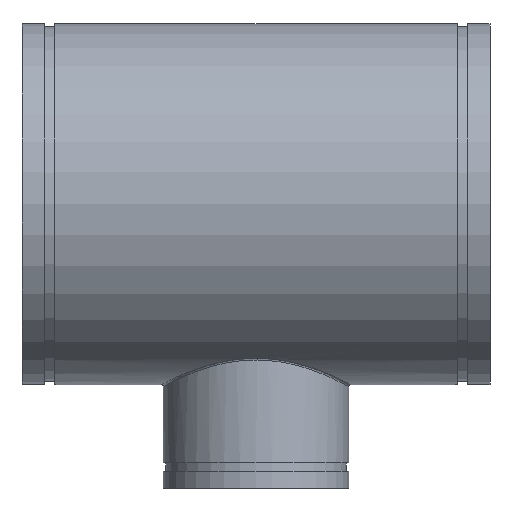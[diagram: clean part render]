
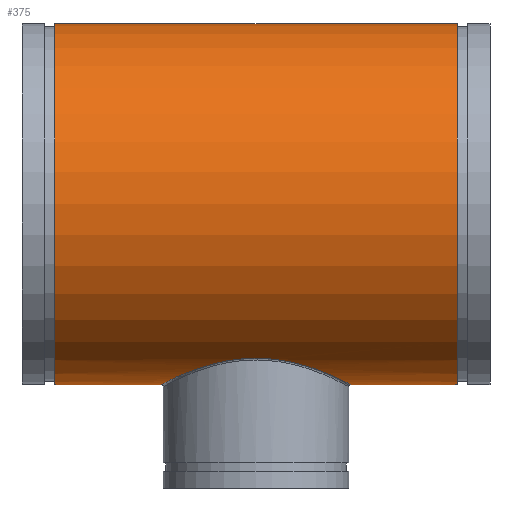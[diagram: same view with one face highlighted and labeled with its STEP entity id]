
A CAD part, top view. The second image highlights one B-rep face of the part: STEP entity #375.
In plain terms, the highlighted cylindrical face has radius 274.32 mm (diameter 548.64 mm), a full revolution.
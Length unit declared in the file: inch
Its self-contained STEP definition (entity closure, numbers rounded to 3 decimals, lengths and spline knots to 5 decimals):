
#54=FACE_BOUND('',#119,.T.);
#65=LINE('',#896,#76);
#76=VECTOR('',#483,10.8);
#87=CYLINDRICAL_SURFACE('',#415,10.8);
#98=FACE_OUTER_BOUND('',#118,.T.);
#118=EDGE_LOOP('',(#266,#267,#268,#269));
#119=EDGE_LOOP('',(#270));
#150=B_SPLINE_CURVE_WITH_KNOTS('',3,(#853,#854,#855,#856,#857,#858,#859,
#860,#861,#862,#863,#864,#865,#866,#867,#868,#869,#870,#871,#872,#873,#874,
#875,#876,#877,#878,#879,#880,#881,#882,#883,#884,#885,#886,#887,#888,#889,
#890,#891),.UNSPECIFIED.,.T.,.F.,(4,1,1,1,1,1,1,1,1,1,1,1,1,1,1,1,1,1,1,
1,1,1,1,1,1,1,1,1,1,1,1,1,1,1,1,1,4),(-86.81398,-84.4886,
-83.71348,-80.61298,-74.41198,-71.82823,
-70.27798,-68.21098,-66.14398,-65.88561,
-65.11048,-64.07698,-62.00998,-60.97648,
-57.87598,-53.74199,-49.60799,-47.02424,
-45.47399,-43.40699,-41.33999,-40.30649,
-37.20599,-33.07199,-28.93799,-27.64612,
-26.87099,-24.80399,-21.70349,-21.44512,-20.66999,
-16.536,-12.402,-9.3015,-6.201,
-3.1005,0.),.UNSPECIFIED.);
#154=CIRCLE('',#416,10.8);
#155=CIRCLE('',#417,10.8);
#182=VERTEX_POINT('',#806);
#185=VERTEX_POINT('',#893);
#186=VERTEX_POINT('',#895);
#219=EDGE_CURVE('',#182,#182,#150,.T.);
#220=EDGE_CURVE('',#185,#185,#154,.T.);
#221=EDGE_CURVE('',#185,#186,#65,.T.);
#222=EDGE_CURVE('',#186,#186,#155,.T.);
#266=ORIENTED_EDGE('',*,*,#220,.T.);
#267=ORIENTED_EDGE('',*,*,#221,.T.);
#268=ORIENTED_EDGE('',*,*,#222,.T.);
#269=ORIENTED_EDGE('',*,*,#221,.F.);
#270=ORIENTED_EDGE('',*,*,#219,.F.);
#375=ADVANCED_FACE('',(#98,#54),#87,.T.);
#415=AXIS2_PLACEMENT_3D('',#892,#479,#480);
#416=AXIS2_PLACEMENT_3D('',#894,#481,#482);
#417=AXIS2_PLACEMENT_3D('',#897,#484,#485);
#479=DIRECTION('center_axis',(-1.,0.,0.));
#480=DIRECTION('ref_axis',(0.,-1.,0.));
#481=DIRECTION('center_axis',(1.,0.,0.));
#482=DIRECTION('ref_axis',(0.,-1.,0.));
#483=DIRECTION('',(1.,0.,0.));
#484=DIRECTION('center_axis',(-1.,0.,0.));
#485=DIRECTION('ref_axis',(0.,-1.,0.));
#806=CARTESIAN_POINT('',(0.,-9.2286,-5.61007));
#853=CARTESIAN_POINT('Ctrl Pts',(0.,-9.2286,
-5.61007));
#854=CARTESIAN_POINT('Ctrl Pts',(0.32452,-9.2286,-5.61007));
#855=CARTESIAN_POINT('Ctrl Pts',(0.75707,-9.25139,-5.57309));
#856=CARTESIAN_POINT('Ctrl Pts',(1.60005,-9.35099,-5.40459));
#857=CARTESIAN_POINT('Ctrl Pts',(2.91022,-9.61705,-4.94233));
#858=CARTESIAN_POINT('Ctrl Pts',(4.17959,-10.09635,-3.93628));
#859=CARTESIAN_POINT('Ctrl Pts',(4.95462,-10.44582,-2.7788));
#860=CARTESIAN_POINT('Ctrl Pts',(5.31294,-10.61765,-2.01744));
#861=CARTESIAN_POINT('Ctrl Pts',(5.54879,-10.73528,-1.27536));
#862=CARTESIAN_POINT('Ctrl Pts',(5.64206,-10.78313,-0.67608));
#863=CARTESIAN_POINT('Ctrl Pts',(5.67087,-10.79788,-0.24953));
#864=CARTESIAN_POINT('Ctrl Pts',(5.67911,-10.80211,0.03562));
#865=CARTESIAN_POINT('Ctrl Pts',(5.65855,-10.79156,0.57034));
#866=CARTESIAN_POINT('Ctrl Pts',(5.57068,-10.74654,1.13425));
#867=CARTESIAN_POINT('Ctrl Pts',(5.34498,-10.63346,1.95316));
#868=CARTESIAN_POINT('Ctrl Pts',(4.88237,-10.40826,2.98279));
#869=CARTESIAN_POINT('Ctrl Pts',(3.91418,-9.9864,4.17269));
#870=CARTESIAN_POINT('Ctrl Pts',(2.6993,-9.58144,4.99792));
#871=CARTESIAN_POINT('Ctrl Pts',(1.635,-9.35705,5.39498));
#872=CARTESIAN_POINT('Ctrl Pts',(0.79323,-9.25208,5.57178));
#873=CARTESIAN_POINT('Ctrl Pts',(-0.00004,-9.21512,
5.632));
#874=CARTESIAN_POINT('Ctrl Pts',(-0.72108,-9.24876,5.57723));
#875=CARTESIAN_POINT('Ctrl Pts',(-1.56643,-9.34434,5.4164));
#876=CARTESIAN_POINT('Ctrl Pts',(-2.64153,-9.5621,5.03721));
#877=CARTESIAN_POINT('Ctrl Pts',(-3.91419,-9.98644,4.17269));
#878=CARTESIAN_POINT('Ctrl Pts',(-4.72828,-10.34111,3.1721));
#879=CARTESIAN_POINT('Ctrl Pts',(-5.1207,-10.52538,2.43062));
#880=CARTESIAN_POINT('Ctrl Pts',(-5.34506,-10.63362,1.91631));
#881=CARTESIAN_POINT('Ctrl Pts',(-5.59176,-10.75681,1.1404));
#882=CARTESIAN_POINT('Ctrl Pts',(-5.67928,-10.80228,0.39213));
#883=CARTESIAN_POINT('Ctrl Pts',(-5.67356,-10.79923,-0.1782));
#884=CARTESIAN_POINT('Ctrl Pts',(-5.63982,-10.78219,-0.89072));
#885=CARTESIAN_POINT('Ctrl Pts',(-5.34944,-10.63216,-2.11357));
#886=CARTESIAN_POINT('Ctrl Pts',(-4.56005,-10.25964,-3.44338));
#887=CARTESIAN_POINT('Ctrl Pts',(-3.57262,-9.86754,-4.41707));
#888=CARTESIAN_POINT('Ctrl Pts',(-2.50696,-9.53493,-5.08478));
#889=CARTESIAN_POINT('Ctrl Pts',(-1.29775,-9.28964,-5.51123));
#890=CARTESIAN_POINT('Ctrl Pts',(-0.43269,-9.2286,-5.61007));
#891=CARTESIAN_POINT('Ctrl Pts',(0.,-9.2286,
-5.61007));
#892=CARTESIAN_POINT('Origin',(14.,0.,0.));
#893=CARTESIAN_POINT('',(-12.035,10.8,0.));
#894=CARTESIAN_POINT('Origin',(-12.035,0.,0.));
#895=CARTESIAN_POINT('',(12.035,10.8,0.));
#896=CARTESIAN_POINT('',(14.,10.8,0.));
#897=CARTESIAN_POINT('Origin',(12.035,0.,0.));
